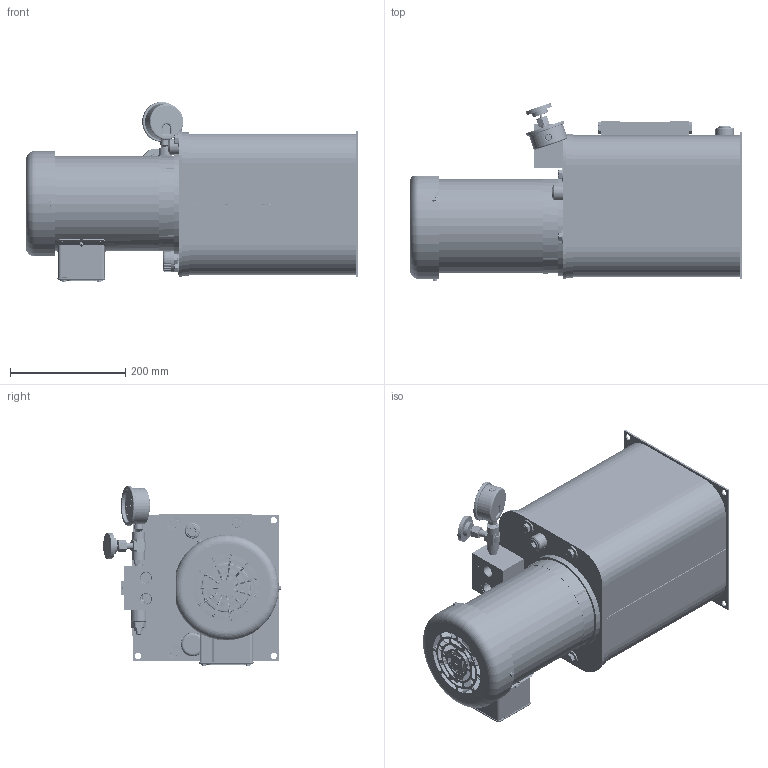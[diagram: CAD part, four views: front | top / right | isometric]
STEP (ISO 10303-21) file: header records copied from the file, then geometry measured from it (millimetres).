
FILE_DESCRIPTION (( 'STEP AP214' ), '1' );
FILE_NAME ('T3V-X-10--NN--047.STEP', '2021-08-25T15:44:33', ( '' ), ( '' ), 'SwSTEP 2.0', 'SolidWorks 2020', '' );
FILE_SCHEMA (( 'AUTOMOTIVE_DESIGN' ));
Length unit declared in the file: inch
Products named in the file (1): T3V-X-10--NN--047
Bounding box: 575.01 x 307.81 x 311.84 mm (x, y, z)
Surface area: 1742011.3 mm2 (no closed solid volume)
Topology: 0 solids, 87 shells, 7714 faces, 19511 edges, 12016 vertices
Faces by surface type: plane 2410, cylinder 2242, bspline 1326, cone 794, torus 648, sphere 294
Entity records: 447055 total; most frequent: CARTESIAN_POINT 178846, ORIENTED_EDGE 38536, DIRECTION 29483, EDGE_CURVE 19287, VERTEX_POINT 11999, AXIS2_PLACEMENT_3D 11324, EDGE_LOOP 8244, LENGTH_MEASURE_WITH_UNIT 7787
